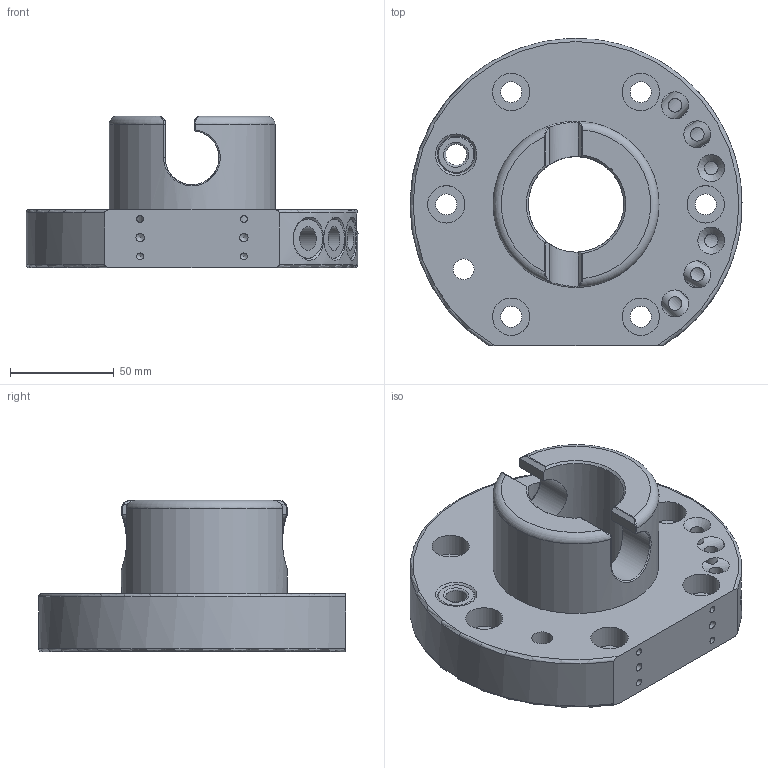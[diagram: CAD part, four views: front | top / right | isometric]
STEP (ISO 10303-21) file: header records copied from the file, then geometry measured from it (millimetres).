
FILE_DESCRIPTION(/* description */ (''),/* implementation_level */ '2;1');
FILE_NAME(/* name */ 'G-HWS160-U-A125_Rev.1.01.stp',/* time_stamp */ '2025-03-18T14:58:05+01:00',/* author */ ('ysplieth'),/* organization */ (''),/* preprocessor_version */ 'ST-DEVELOPER v20',/* originating_system */ 'Autodesk Inventor 2024',/* authorisation */ '');
FILE_SCHEMA (('AUTOMOTIVE_DESIGN { 1 0 10303 214 3 1 1 }'));
Length unit declared in the file: millimetre
Products named in the file (1): Bauteil1
Bounding box: 159.99 x 148 x 73 mm (x, y, z)
Volume: 548068 mm3; surface area: 84057.9 mm2
Topology: 1 solids, 1 shells, 330 faces, 863 edges, 566 vertices
Faces by surface type: plane 136, bspline 97, cylinder 60, cone 32, torus 5
Full cylindrical faces by diameter (mm): 3.242 x4, 4 x2, 6.5 x6, 10 x1, 10.1 x1, 10.106 x6, 11.445 x6, 14 x1, 18 x7, 46 x1, 80 x2
Entity records: 13530 total; most frequent: CARTESIAN_POINT 5843, ORIENTED_EDGE 1706, DIRECTION 1187, EDGE_CURVE 853, VERTEX_POINT 566, LINE 457, VECTOR 457, EDGE_LOOP 405
